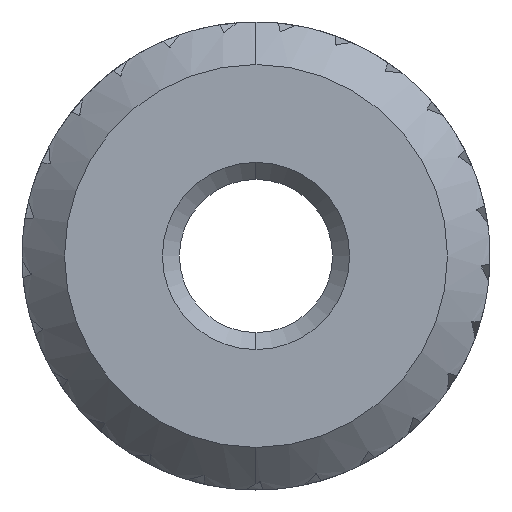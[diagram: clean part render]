
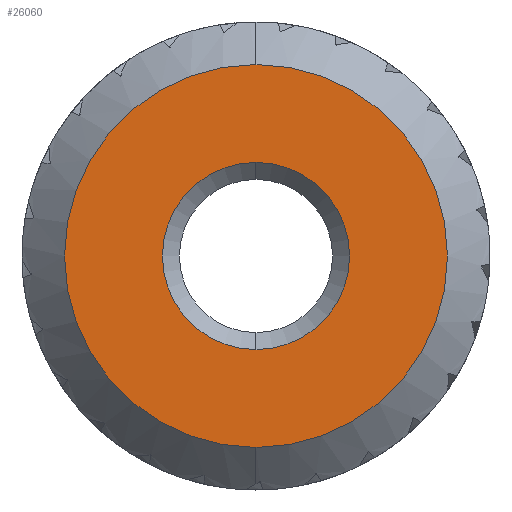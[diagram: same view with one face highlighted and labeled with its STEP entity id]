
A CAD part, left-side view. The second image highlights one B-rep face of the part: STEP entity #26060.
In plain terms, the highlighted planar face has unit normal (-1, 0, 0).
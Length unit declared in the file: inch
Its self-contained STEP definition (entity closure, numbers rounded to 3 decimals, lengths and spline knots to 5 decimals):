
#1241 = EDGE_CURVE ( 'NONE', #5809, #16108, #19025, .T. ) ;
#3341 = CARTESIAN_POINT ( 'NONE',  ( -0.80282, 0., 0. ) ) ;
#3378 = EDGE_LOOP ( 'NONE', ( #18152, #48397 ) ) ;
#3827 = AXIS2_PLACEMENT_3D ( 'NONE', #40810, #8909, #36942 ) ;
#4818 = PLANE ( 'NONE',  #3827 ) ;
#5282 = FACE_BOUND ( 'NONE', #12305, .T. ) ;
#5809 = VERTEX_POINT ( 'NONE', #42920 ) ;
#7341 = AXIS2_PLACEMENT_3D ( 'NONE', #17422, #45433, #21407 ) ;
#7378 = DIRECTION ( 'NONE',  ( 0., 0., 1. ) ) ;
#8787 = DIRECTION ( 'NONE',  ( -1., 0., 0. ) ) ;
#8909 = DIRECTION ( 'NONE',  ( 1., 0., 0. ) ) ;
#9605 = CARTESIAN_POINT ( 'NONE',  ( -0.80282, 0., 0.055 ) ) ;
#10113 = ORIENTED_EDGE ( 'NONE', *, *, #32899, .F. ) ;
#12305 = EDGE_LOOP ( 'NONE', ( #20199, #10113 ) ) ;
#16063 = VERTEX_POINT ( 'NONE', #9605 ) ;
#16108 = VERTEX_POINT ( 'NONE', #46052 ) ;
#16425 = CIRCLE ( 'NONE', #27352, 0.055 ) ;
#17422 = CARTESIAN_POINT ( 'NONE',  ( -0.80282, 0., 0. ) ) ;
#18152 = ORIENTED_EDGE ( 'NONE', *, *, #1241, .T. ) ;
#19025 = CIRCLE ( 'NONE', #46674, 0.1125 ) ;
#20199 = ORIENTED_EDGE ( 'NONE', *, *, #51317, .F. ) ;
#21407 = DIRECTION ( 'NONE',  ( 0., 0., 1. ) ) ;
#21557 = CARTESIAN_POINT ( 'NONE',  ( -0.80282, 0., 0. ) ) ;
#25618 = DIRECTION ( 'NONE',  ( 0., 0., 1. ) ) ;
#26060 = ADVANCED_FACE ( 'NONE', ( #5282, #37313 ), #4818, .F. ) ;
#27352 = AXIS2_PLACEMENT_3D ( 'NONE', #3341, #31404, #7378 ) ;
#28275 = EDGE_CURVE ( 'NONE', #16108, #5809, #35972, .T. ) ;
#29709 = CIRCLE ( 'NONE', #43631, 0.055 ) ;
#31404 = DIRECTION ( 'NONE',  ( -1., 0., 0. ) ) ;
#32790 = CARTESIAN_POINT ( 'NONE',  ( -0.80282, 0., 0. ) ) ;
#32899 = EDGE_CURVE ( 'NONE', #45553, #16063, #29709, .T. ) ;
#35972 = CIRCLE ( 'NONE', #7341, 0.1125 ) ;
#36840 = DIRECTION ( 'NONE',  ( 0., 0., 1. ) ) ;
#36942 = DIRECTION ( 'NONE',  ( 0., 0., -1. ) ) ;
#37313 = FACE_OUTER_BOUND ( 'NONE', #3378, .T. ) ;
#40810 = CARTESIAN_POINT ( 'NONE',  ( -0.80282, 0.055, 0. ) ) ;
#42920 = CARTESIAN_POINT ( 'NONE',  ( -0.80282, 0., -0.1125 ) ) ;
#43631 = AXIS2_PLACEMENT_3D ( 'NONE', #21557, #49607, #25618 ) ;
#43732 = CARTESIAN_POINT ( 'NONE',  ( -0.80282, 0., -0.055 ) ) ;
#45433 = DIRECTION ( 'NONE',  ( -1., 0., 0. ) ) ;
#45553 = VERTEX_POINT ( 'NONE', #43732 ) ;
#46052 = CARTESIAN_POINT ( 'NONE',  ( -0.80282, 0., 0.1125 ) ) ;
#46674 = AXIS2_PLACEMENT_3D ( 'NONE', #32790, #8787, #36840 ) ;
#48397 = ORIENTED_EDGE ( 'NONE', *, *, #28275, .T. ) ;
#49607 = DIRECTION ( 'NONE',  ( -1., 0., 0. ) ) ;
#51317 = EDGE_CURVE ( 'NONE', #16063, #45553, #16425, .T. ) ;
